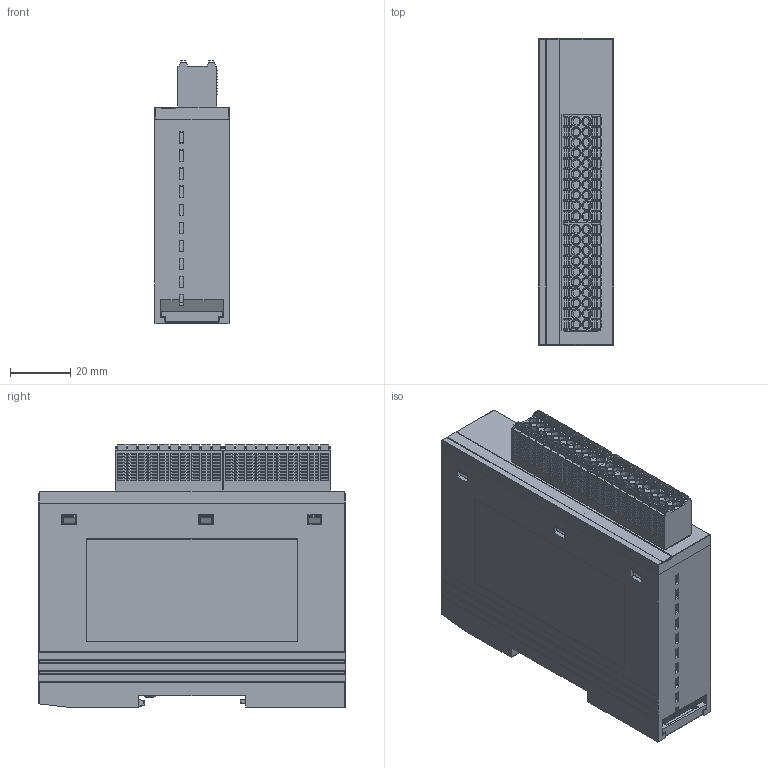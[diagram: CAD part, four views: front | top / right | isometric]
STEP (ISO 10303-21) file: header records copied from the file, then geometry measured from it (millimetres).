
FILE_DESCRIPTION((''),'2;1');
FILE_NAME('PRO_XX4_SW0001','2022-10-25T09:27:59',('董'),(''),'CREO PARAMETRIC BY PTC INC, 2020033','CREO PARAMETRIC BY PTC INC, 2020033','');
FILE_SCHEMA(('CONFIG_CONTROL_DESIGN'));
Products named in the file (1): PRO_XX4_SW0001
Bounding box: 25 x 102 x 87.5 mm (x, y, z)
Volume: 60961.3 mm3; surface area: 69966.6 mm2
Topology: 1 solids, 2 shells, 7024 faces, 18097 edges, 11119 vertices
Faces by surface type: plane 3865, cylinder 2025, bspline 524, cone 250, sphere 190, torus 170
Entity records: 231476 total; most frequent: CARTESIAN_POINT 65917, ORIENTED_EDGE 35862, DIRECTION 32027, EDGE_CURVE 17931, VECTOR 12531, LINE 12531, VERTEX_POINT 11119, AXIS2_PLACEMENT_3D 9748
